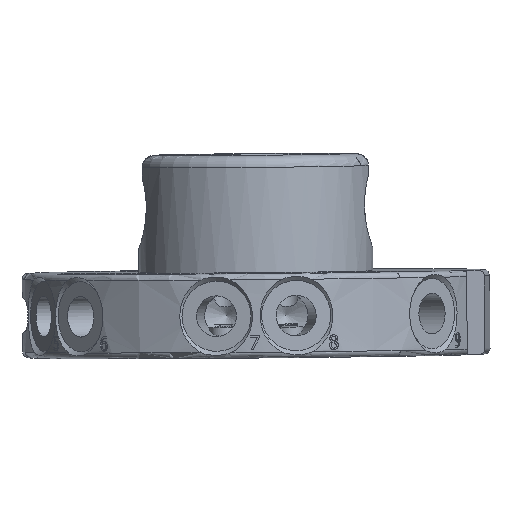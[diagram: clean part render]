
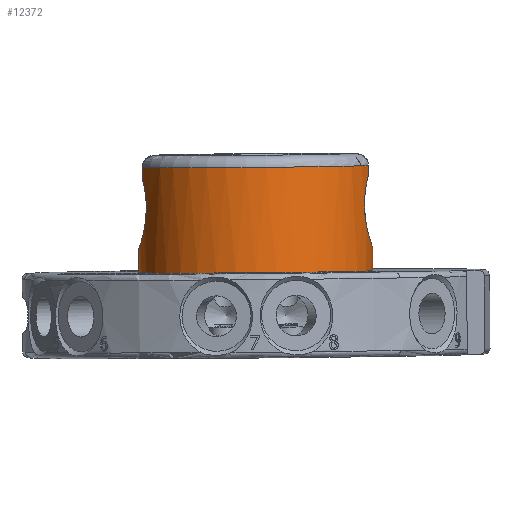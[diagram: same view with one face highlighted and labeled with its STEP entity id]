
A CAD part, left-side view. The second image highlights one B-rep face of the part: STEP entity #12372.
In plain terms, the highlighted cylindrical face has radius 25 mm (diameter 50 mm), a full revolution.
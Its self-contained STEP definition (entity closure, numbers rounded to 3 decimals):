
#1367=B_SPLINE_CURVE_WITH_KNOTS('',3,(#51246,#51247,#51248,#51249,#51250,
#51251,#51252,#51253,#51254,#51255,#51256,#51257,#51258,#51259),
 .UNSPECIFIED.,.F.,.F.,(4,2,2,2,2,2,4),(1.369,1.712,
2.054,2.396,2.739,3.081,3.375),
 .UNSPECIFIED.);
#1368=B_SPLINE_CURVE_WITH_KNOTS('',3,(#51260,#51261,#51262,#51263,#51264,
#51265,#51266,#51267,#51268,#51269,#51270,#51271,#51272,#51273,#51274),
 .UNSPECIFIED.,.F.,.F.,(4,2,3,2,2,2,4),(-0.636,-0.342,
0.,0.342,0.685,1.027,1.369),
 .UNSPECIFIED.);
#1369=B_SPLINE_CURVE_WITH_KNOTS('',3,(#51276,#51277,#51278,#51279,#51280,
#51281,#51282,#51283,#51284,#51285,#51286,#51287,#51288,#51289,#51290,#51291,
#51292,#51293,#51294,#51295,#51296,#51297,#51298,#51299,#51300,#51301,#51302,
#51303,#51304,#51305,#51306),.UNSPECIFIED.,.F.,.F.,(4,2,2,2,2,2,2,2,2,2,
2,3,2,2,4),(-3.447,-3.424,-3.081,-2.739,
-2.396,-2.054,-1.712,-1.369,
-1.027,-0.685,-0.342,0.,0.342,
0.685,0.708),.UNSPECIFIED.);
#2021=FACE_OUTER_BOUND('',#2778,.T.);
#2778=EDGE_LOOP('',(#10941,#10942,#10943,#10944,#10945,#10946,#10947,#10948,
#10949,#10950,#10951,#10952));
#2952=CIRCLE('',#12897,25.);
#3055=CIRCLE('',#13122,25.);
#3056=CIRCLE('',#13123,25.);
#3496=LINE('',#19495,#4251);
#3500=LINE('',#19565,#4255);
#3816=LINE('',#51192,#4571);
#3820=LINE('',#51220,#4575);
#3822=LINE('',#51309,#4577);
#4251=VECTOR('',#14112,10.);
#4255=VECTOR('',#14124,10.);
#4571=VECTOR('',#15286,10.);
#4575=VECTOR('',#15302,10.);
#4577=VECTOR('',#15332,25.);
#5158=VERTEX_POINT('',#19485);
#5159=VERTEX_POINT('',#19494);
#5166=VERTEX_POINT('',#19555);
#5167=VERTEX_POINT('',#19564);
#5613=VERTEX_POINT('',#50337);
#5728=VERTEX_POINT('',#51189);
#5729=VERTEX_POINT('',#51191);
#5732=VERTEX_POINT('',#51217);
#5733=VERTEX_POINT('',#51219);
#5738=VERTEX_POINT('',#51245);
#6580=EDGE_CURVE('',#5159,#5158,#3496,.T.);
#6591=EDGE_CURVE('',#5167,#5166,#3500,.T.);
#7248=EDGE_CURVE('',#5613,#5613,#2952,.T.);
#7458=EDGE_CURVE('',#5729,#5728,#3816,.T.);
#7466=EDGE_CURVE('',#5733,#5732,#3820,.T.);
#7475=EDGE_CURVE('',#5738,#5159,#1367,.T.);
#7476=EDGE_CURVE('',#5732,#5738,#1368,.T.);
#7477=EDGE_CURVE('',#5728,#5167,#1369,.T.);
#7478=EDGE_CURVE('',#5733,#5166,#3055,.T.);
#7479=EDGE_CURVE('',#5738,#5613,#3822,.T.);
#7480=EDGE_CURVE('',#5729,#5158,#3056,.T.);
#10941=ORIENTED_EDGE('',*,*,#7458,.T.);
#10942=ORIENTED_EDGE('',*,*,#7477,.T.);
#10943=ORIENTED_EDGE('',*,*,#6591,.T.);
#10944=ORIENTED_EDGE('',*,*,#7478,.F.);
#10945=ORIENTED_EDGE('',*,*,#7466,.T.);
#10946=ORIENTED_EDGE('',*,*,#7476,.T.);
#10947=ORIENTED_EDGE('',*,*,#7479,.T.);
#10948=ORIENTED_EDGE('',*,*,#7248,.T.);
#10949=ORIENTED_EDGE('',*,*,#7479,.F.);
#10950=ORIENTED_EDGE('',*,*,#7475,.T.);
#10951=ORIENTED_EDGE('',*,*,#6580,.T.);
#10952=ORIENTED_EDGE('',*,*,#7480,.F.);
#11065=CYLINDRICAL_SURFACE('',#13121,25.);
#12372=ADVANCED_FACE('',(#2021),#11065,.T.);
#12897=AXIS2_PLACEMENT_3D('',#50338,#14788,#14789);
#13121=AXIS2_PLACEMENT_3D('',#51307,#15328,#15329);
#13122=AXIS2_PLACEMENT_3D('',#51308,#15330,#15331);
#13123=AXIS2_PLACEMENT_3D('',#51310,#15333,#15334);
#14112=DIRECTION('',(-0.01,0.009,1.));
#14124=DIRECTION('',(-0.01,0.009,1.));
#14788=DIRECTION('center_axis',(-0.01,0.009,
1.));
#14789=DIRECTION('ref_axis',(1.,0.,0.01));
#15286=DIRECTION('',(0.01,-0.009,-1.));
#15302=DIRECTION('',(0.01,-0.009,-1.));
#15328=DIRECTION('center_axis',(-0.01,0.009,
1.));
#15329=DIRECTION('ref_axis',(0.,-1.,0.009));
#15330=DIRECTION('center_axis',(-0.01,0.009,
1.));
#15331=DIRECTION('ref_axis',(0.,-1.,0.009));
#15332=DIRECTION('',(0.01,-0.009,-1.));
#15333=DIRECTION('center_axis',(-0.01,0.009,
1.));
#15334=DIRECTION('ref_axis',(0.,-1.,0.009));
#19485=CARTESIAN_POINT('',(8.187,32.835,15.096));
#19494=CARTESIAN_POINT('',(8.211,32.813,12.605));
#19495=CARTESIAN_POINT('',(8.327,32.708,0.664));
#19555=CARTESIAN_POINT('',(-4.714,-15.469,15.393));
#19564=CARTESIAN_POINT('',(-4.695,-15.486,13.417));
#19565=CARTESIAN_POINT('',(-4.574,-15.595,0.961));
#50337=CARTESIAN_POINT('',(1.706,33.552,-7.475));
#50338=CARTESIAN_POINT('Origin',(1.705,8.553,-7.257));
#51189=CARTESIAN_POINT('',(7.704,-15.485,13.538));
#51191=CARTESIAN_POINT('',(7.685,-15.468,15.514));
#51192=CARTESIAN_POINT('',(7.825,-15.594,1.082));
#51217=CARTESIAN_POINT('',(-5.188,32.812,12.475));
#51219=CARTESIAN_POINT('',(-5.212,32.834,14.966));
#51220=CARTESIAN_POINT('',(-5.072,32.708,0.534));
#51245=CARTESIAN_POINT('',(1.657,33.596,-2.476));
#51246=CARTESIAN_POINT('Ctrl Pts',(1.657,33.596,-2.476));
#51247=CARTESIAN_POINT('Ctrl Pts',(2.798,33.596,-2.465));
#51248=CARTESIAN_POINT('Ctrl Pts',(4.006,33.512,-2.222));
#51249=CARTESIAN_POINT('Ctrl Pts',(6.212,33.211,-1.276));
#51250=CARTESIAN_POINT('Ctrl Pts',(7.21,32.997,-0.574));
#51251=CARTESIAN_POINT('Ctrl Pts',(8.781,32.594,1.032));
#51252=CARTESIAN_POINT('Ctrl Pts',(9.462,32.376,2.046));
#51253=CARTESIAN_POINT('Ctrl Pts',(10.362,32.071,4.271));
#51254=CARTESIAN_POINT('Ctrl Pts',(10.581,31.989,5.484));
#51255=CARTESIAN_POINT('Ctrl Pts',(10.558,32.009,7.767));
#51256=CARTESIAN_POINT('Ctrl Pts',(10.316,32.112,8.974));
#51257=CARTESIAN_POINT('Ctrl Pts',(9.441,32.431,11.017));
#51258=CARTESIAN_POINT('Ctrl Pts',(8.872,32.625,11.885));
#51259=CARTESIAN_POINT('Ctrl Pts',(8.211,32.813,12.605));
#51260=CARTESIAN_POINT('Ctrl Pts',(-5.188,32.812,12.475));
#51261=CARTESIAN_POINT('Ctrl Pts',(-5.834,32.624,11.742));
#51262=CARTESIAN_POINT('Ctrl Pts',(-6.387,32.431,10.863));
#51263=CARTESIAN_POINT('Ctrl Pts',(-7.222,32.111,8.803));
#51264=CARTESIAN_POINT('Ctrl Pts',(-7.441,32.008,7.592));
#51265=CARTESIAN_POINT('Ctrl Pts',(-7.43,31.998,6.451));
#51266=CARTESIAN_POINT('Ctrl Pts',(-7.419,31.988,5.309));
#51267=CARTESIAN_POINT('Ctrl Pts',(-7.177,32.07,4.101));
#51268=CARTESIAN_POINT('Ctrl Pts',(-6.234,32.375,1.893));
#51269=CARTESIAN_POINT('Ctrl Pts',(-5.533,32.593,0.893));
#51270=CARTESIAN_POINT('Ctrl Pts',(-3.931,32.997,-0.682));
#51271=CARTESIAN_POINT('Ctrl Pts',(-2.919,33.211,-1.365));
#51272=CARTESIAN_POINT('Ctrl Pts',(-0.696,33.512,
-2.268));
#51273=CARTESIAN_POINT('Ctrl Pts',(0.517,33.596,-2.487));
#51274=CARTESIAN_POINT('Ctrl Pts',(1.657,33.596,-2.476));
#51276=CARTESIAN_POINT('Ctrl Pts',(7.704,-15.485,13.538));
#51277=CARTESIAN_POINT('Ctrl Pts',(7.76,-15.472,13.485));
#51278=CARTESIAN_POINT('Ctrl Pts',(7.815,-15.458,13.432));
#51279=CARTESIAN_POINT('Ctrl Pts',(8.671,-15.242,12.591));
#51280=CARTESIAN_POINT('Ctrl Pts',(9.371,-15.025,11.591));
#51281=CARTESIAN_POINT('Ctrl Pts',(10.314,-14.719,9.383));
#51282=CARTESIAN_POINT('Ctrl Pts',(10.556,-14.637,8.175));
#51283=CARTESIAN_POINT('Ctrl Pts',(10.579,-14.657,5.892));
#51284=CARTESIAN_POINT('Ctrl Pts',(10.36,-14.76,4.681));
#51285=CARTESIAN_POINT('Ctrl Pts',(9.46,-15.104,2.461));
#51286=CARTESIAN_POINT('Ctrl Pts',(8.779,-15.34,1.452));
#51287=CARTESIAN_POINT('Ctrl Pts',(7.208,-15.771,-0.147));
#51288=CARTESIAN_POINT('Ctrl Pts',(6.21,-15.997,-0.846));
#51289=CARTESIAN_POINT('Ctrl Pts',(4.004,-16.315,-1.786));
#51290=CARTESIAN_POINT('Ctrl Pts',(2.796,-16.402,-2.027));
#51291=CARTESIAN_POINT('Ctrl Pts',(0.514,-16.402,-2.049));
#51292=CARTESIAN_POINT('Ctrl Pts',(-0.698,-16.315,
-1.832));
#51293=CARTESIAN_POINT('Ctrl Pts',(-2.921,-15.998,-0.934));
#51294=CARTESIAN_POINT('Ctrl Pts',(-3.933,-15.772,
-0.255));
#51295=CARTESIAN_POINT('Ctrl Pts',(-5.535,-15.34,1.312));
#51296=CARTESIAN_POINT('Ctrl Pts',(-6.236,-15.105,
2.309));
#51297=CARTESIAN_POINT('Ctrl Pts',(-7.179,-14.761,
4.511));
#51298=CARTESIAN_POINT('Ctrl Pts',(-7.421,-14.658,5.717));
#51299=CARTESIAN_POINT('Ctrl Pts',(-7.432,-14.648,6.859));
#51300=CARTESIAN_POINT('Ctrl Pts',(-7.443,-14.638,
8.));
#51301=CARTESIAN_POINT('Ctrl Pts',(-7.224,-14.72,
9.213));
#51302=CARTESIAN_POINT('Ctrl Pts',(-6.324,-15.025,
11.439));
#51303=CARTESIAN_POINT('Ctrl Pts',(-5.643,-15.243,12.452));
#51304=CARTESIAN_POINT('Ctrl Pts',(-4.804,-15.458,
13.31));
#51305=CARTESIAN_POINT('Ctrl Pts',(-4.75,-15.472,
13.364));
#51306=CARTESIAN_POINT('Ctrl Pts',(-4.695,-15.486,
13.417));
#51307=CARTESIAN_POINT('Origin',(1.627,8.623,0.81));
#51308=CARTESIAN_POINT('Origin',(1.486,8.75,15.241));
#51309=CARTESIAN_POINT('',(1.628,33.623,0.591));
#51310=CARTESIAN_POINT('Origin',(1.486,8.75,15.241));
